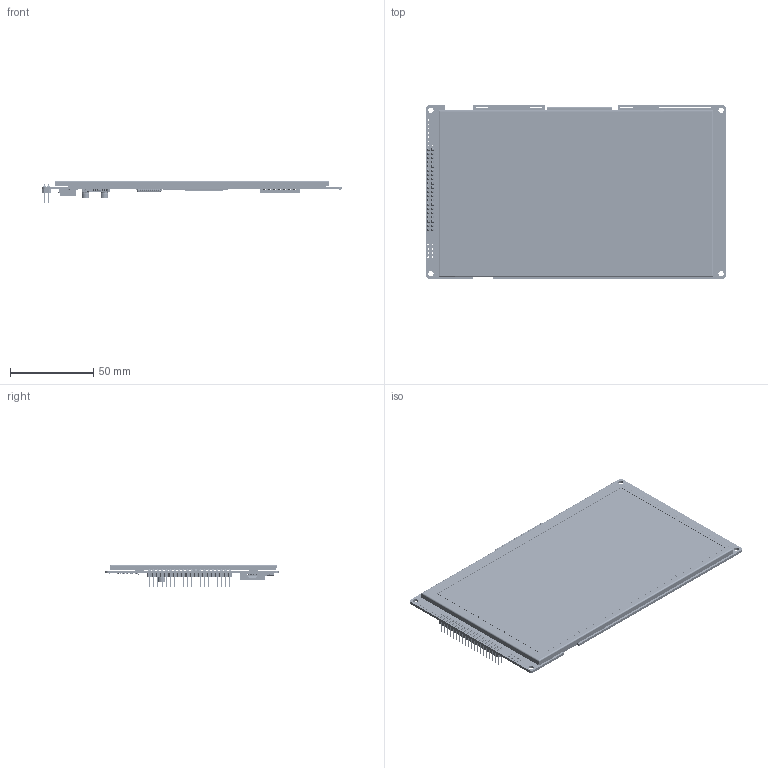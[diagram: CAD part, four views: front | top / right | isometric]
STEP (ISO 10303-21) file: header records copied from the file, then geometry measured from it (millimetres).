
FILE_DESCRIPTION (( 'STEP AP214' ), '1' );
FILE_NAME ('ER-TFTM070-7.STEP', '2024-01-08T00:48:03', ( '微软用户' ), ( '微软中国' ), 'SwSTEP 2.0', 'SolidWorks 2019', '' );
FILE_SCHEMA (( 'AUTOMOTIVE_DESIGN' ));
Length unit declared in the file: millimetre
Products named in the file (27): ER-SD_Card; ER-TFTM070-7; ER-TFT070A2-4_ﾕﾛFPC; FPC Connector-40 PIN; 100uF 16V 6.3x7.7mm SMD Aluminum v3; FPC-8; ER-PCBAM070-7; logo_z; 錨璃7^ER-TFTM070-7_Z; pin header_2x20PIN; 40 Pin 1.0mm Pitch Bottom Contact ZIF Connector; ER-TFT070A2-4_沺遺; 3M½º^ER-TFTM070-7_Z; ER-LT7683_Controller
Assembly tree (12 placements, depth 2):
  ER-SD_Card
  ER-TFTM070-7
    ER-PCBAM070-7
    ER-TFT070A2-4_沺遺
    ER-TFT070A2-4_ﾕﾛFPC
    logo_z
    3M½º^ER-TFTM070-7_Z
    FPC Connector-40 PIN
    ER-LT7683_Controller
    100uF 16V 6.3x7.7mm SMD Aluminum v3
    pin header_2x20PIN
    ER-SD_Card
    FPC-8
    40 Pin 1.0mm Pitch Bottom Contact ZIF Connector
  ER-TFT070A2-4_ﾕﾛFPC
  FPC Connector-40 PIN
  100uF 16V 6.3x7.7mm SMD Aluminum v3
Bounding box: 180 x 104 x 13.7 mm (x, y, z)
Topology: 195 solids, 211 shells, 11181 faces, 30078 edges, 19506 vertices
Faces by surface type: plane 8019, cylinder 1905, bspline 1254, cone 3
Entity records: 459540 total; most frequent: CARTESIAN_POINT 122730, ORIENTED_EDGE 60136, DIRECTION 50872, EDGE_CURVE 30073, LINE 23536, VECTOR 23536, VERTEX_POINT 19506, AXIS2_PLACEMENT_3D 13668
